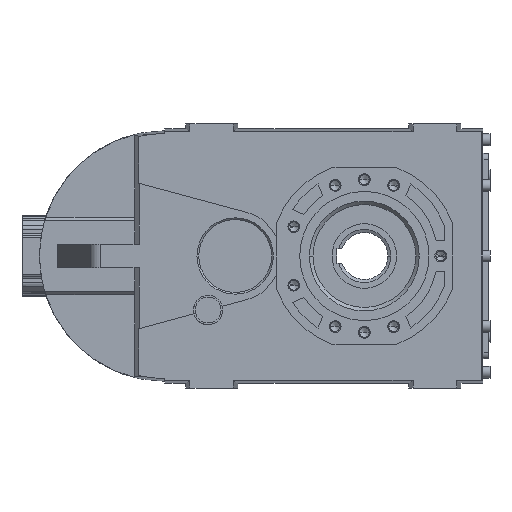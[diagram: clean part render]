
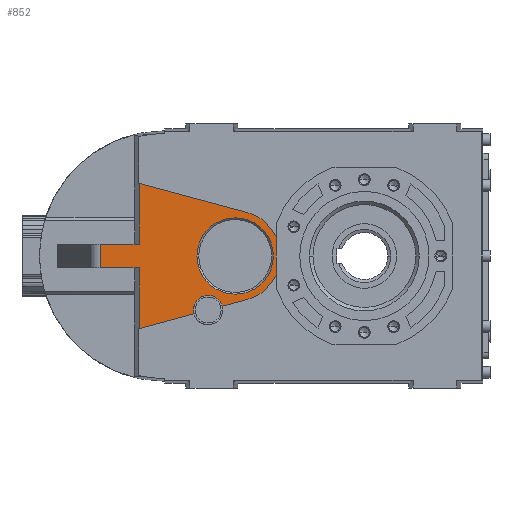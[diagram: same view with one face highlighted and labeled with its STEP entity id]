
A CAD part, left-side view. The second image highlights one B-rep face of the part: STEP entity #852.
In plain terms, the highlighted planar face has unit normal (-1, 0, 0).
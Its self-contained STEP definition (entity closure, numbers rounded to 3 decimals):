
#852 = ADVANCED_FACE( '', ( #3625, #3626 ), #3627, .T. );
#3625 = FACE_OUTER_BOUND( '', #8567, .T. );
#3626 = FACE_BOUND( '', #8568, .T. );
#3627 = PLANE( '', #8569 );
#8567 = EDGE_LOOP( '', ( #15459, #15460, #15461, #15462, #15463, #15464, #15465, #15466, #15467, #15468, #15469, #15470, #15471 ) );
#8568 = EDGE_LOOP( '', ( #15472, #15473 ) );
#8569 = AXIS2_PLACEMENT_3D( '', #15474, #15475, #15476 );
#15459 = ORIENTED_EDGE( '', *, *, #33570, .T. );
#15460 = ORIENTED_EDGE( '', *, *, #33730, .F. );
#15461 = ORIENTED_EDGE( '', *, *, #33731, .F. );
#15462 = ORIENTED_EDGE( '', *, *, #33717, .T. );
#15463 = ORIENTED_EDGE( '', *, *, #33711, .T. );
#15464 = ORIENTED_EDGE( '', *, *, #33706, .F. );
#15465 = ORIENTED_EDGE( '', *, *, #33700, .F. );
#15466 = ORIENTED_EDGE( '', *, *, #33727, .T. );
#15467 = ORIENTED_EDGE( '', *, *, #33695, .F. );
#15468 = ORIENTED_EDGE( '', *, *, #33692, .T. );
#15469 = ORIENTED_EDGE( '', *, *, #32864, .T. );
#15470 = ORIENTED_EDGE( '', *, *, #33732, .F. );
#15471 = ORIENTED_EDGE( '', *, *, #33652, .F. );
#15472 = ORIENTED_EDGE( '', *, *, #32885, .T. );
#15473 = ORIENTED_EDGE( '', *, *, #33684, .T. );
#15474 = CARTESIAN_POINT( '', ( 3., 0., 0. ) );
#15475 = DIRECTION( '', ( -1., 0., 0. ) );
#15476 = DIRECTION( '', ( 0., 0., 1. ) );
#32864 = EDGE_CURVE( '', #39349, #39357, #39359, .T. );
#32885 = EDGE_CURVE( '', #39395, #39399, #39401, .T. );
#33570 = EDGE_CURVE( '', #40537, #40534, #40538, .T. );
#33652 = EDGE_CURVE( '', #40537, #40673, #40674, .T. );
#33684 = EDGE_CURVE( '', #39399, #39395, #40733, .T. );
#33692 = EDGE_CURVE( '', #40741, #39349, #40742, .T. );
#33695 = EDGE_CURVE( '', #40741, #40745, #40746, .T. );
#33700 = EDGE_CURVE( '', #40750, #40753, #40754, .T. );
#33706 = EDGE_CURVE( '', #40753, #40760, #40764, .T. );
#33711 = EDGE_CURVE( '', #40769, #40760, #40772, .T. );
#33717 = EDGE_CURVE( '', #40781, #40769, #40782, .T. );
#33727 = EDGE_CURVE( '', #40750, #40745, #40796, .T. );
#33730 = EDGE_CURVE( '', #40799, #40534, #40800, .T. );
#33731 = EDGE_CURVE( '', #40781, #40799, #40801, .T. );
#33732 = EDGE_CURVE( '', #40673, #39357, #40802, .T. );
#39349 = VERTEX_POINT( '', #50107 );
#39357 = VERTEX_POINT( '', #50117 );
#39359 = CIRCLE( '', #50120, 12.5 );
#39395 = VERTEX_POINT( '', #50164 );
#39399 = VERTEX_POINT( '', #50169 );
#39401 = CIRCLE( '', #50172, 32.5 );
#40534 = VERTEX_POINT( '', #51834 );
#40537 = VERTEX_POINT( '', #51838 );
#40538 = LINE( '', #51839, #51840 );
#40673 = VERTEX_POINT( '', #52031 );
#40674 = CIRCLE( '', #52032, 38.5 );
#40733 = CIRCLE( '', #52118, 32.5 );
#40741 = VERTEX_POINT( '', #52126 );
#40742 = CIRCLE( '', #52127, 12.5 );
#40745 = VERTEX_POINT( '', #52131 );
#40746 = LINE( '', #52132, #52133 );
#40750 = VERTEX_POINT( '', #52138 );
#40753 = VERTEX_POINT( '', #52142 );
#40754 = LINE( '', #52143, #52144 );
#40760 = VERTEX_POINT( '', #52152 );
#40764 = LINE( '', #52157, #52158 );
#40769 = VERTEX_POINT( '', #52165 );
#40772 = LINE( '', #52170, #52171 );
#40781 = VERTEX_POINT( '', #52184 );
#40782 = LINE( '', #52185, #52186 );
#40796 = LINE( '', #52207, #52208 );
#40799 = VERTEX_POINT( '', #52212 );
#40800 = CIRCLE( '', #52213, 38.5 );
#40801 = LINE( '', #52214, #52215 );
#40802 = LINE( '', #52216, #52217 );
#50107 = CARTESIAN_POINT( '', ( 3., 145.5, -46. ) );
#50117 = CARTESIAN_POINT( '', ( 3., 120.921, -42.784 ) );
#50120 = AXIS2_PLACEMENT_3D( '', #67607, #67608, #67609 );
#50164 = CARTESIAN_POINT( '', ( 3., 142.5, 0. ) );
#50169 = CARTESIAN_POINT( '', ( 3., 77.5, 0. ) );
#50172 = AXIS2_PLACEMENT_3D( '', #67650, #67651, #67652 );
#51834 = CARTESIAN_POINT( '', ( 3., 75.1, 16.255 ) );
#51838 = CARTESIAN_POINT( '', ( 3., 75.1, -16.255 ) );
#51839 = CARTESIAN_POINT( '', ( 3., 75.1, -13.784 ) );
#51840 = VECTOR( '', #68786, 1. );
#52031 = CARTESIAN_POINT( '', ( 3., 100.035, -37.188 ) );
#52032 = AXIS2_PLACEMENT_3D( '', #68918, #68919, #68920 );
#52118 = AXIS2_PLACEMENT_3D( '', #68960, #68961, #68962 );
#52126 = CARTESIAN_POINT( '', ( 3., 145.069, -49.255 ) );
#52127 = AXIS2_PLACEMENT_3D( '', #68984, #68985, #68986 );
#52131 = CARTESIAN_POINT( '', ( 3., 191.843, -61.788 ) );
#52132 = CARTESIAN_POINT( '', ( 3., 192., -61.83 ) );
#52133 = VECTOR( '', #68991, 1. );
#52138 = CARTESIAN_POINT( '', ( 3., 191.843, -10. ) );
#52142 = CARTESIAN_POINT( '', ( 3., 224.425, -10. ) );
#52143 = CARTESIAN_POINT( '', ( 3., 191.84, -10. ) );
#52144 = VECTOR( '', #69000, 1. );
#52152 = CARTESIAN_POINT( '', ( 3., 224.425, 10. ) );
#52157 = CARTESIAN_POINT( '', ( 3., 224.425, -10. ) );
#52158 = VECTOR( '', #69010, 1. );
#52165 = CARTESIAN_POINT( '', ( 3., 191.843, 10. ) );
#52170 = CARTESIAN_POINT( '', ( 3., 191.84, 10. ) );
#52171 = VECTOR( '', #69015, 1. );
#52184 = CARTESIAN_POINT( '', ( 3., 191.843, 61.788 ) );
#52185 = CARTESIAN_POINT( '', ( 3., 191.843, -60. ) );
#52186 = VECTOR( '', #69023, 1. );
#52207 = CARTESIAN_POINT( '', ( 3., 191.843, -60. ) );
#52208 = VECTOR( '', #69037, 1. );
#52212 = CARTESIAN_POINT( '', ( 3., 100.035, 37.188 ) );
#52213 = AXIS2_PLACEMENT_3D( '', #69042, #69043, #69044 );
#52214 = CARTESIAN_POINT( '', ( 3., 100.035, 37.188 ) );
#52215 = VECTOR( '', #69045, 1. );
#52216 = CARTESIAN_POINT( '', ( 3., 192., -61.83 ) );
#52217 = VECTOR( '', #69046, 1. );
#67607 = CARTESIAN_POINT( '', ( 3., 133., -46. ) );
#67608 = DIRECTION( '', ( 1., 0., 0. ) );
#67609 = DIRECTION( '', ( 0., 1., 0. ) );
#67650 = CARTESIAN_POINT( '', ( 3., 110., 0. ) );
#67651 = DIRECTION( '', ( 1., 0., 0. ) );
#67652 = DIRECTION( '', ( 0., 1., 0. ) );
#68786 = DIRECTION( '', ( 0., 0., 1. ) );
#68918 = CARTESIAN_POINT( '', ( 3., 110., 0. ) );
#68919 = DIRECTION( '', ( 1., 0., 0. ) );
#68920 = DIRECTION( '', ( 0., -0.259, -0.966 ) );
#68960 = CARTESIAN_POINT( '', ( 3., 110., 0. ) );
#68961 = DIRECTION( '', ( 1., 0., 0. ) );
#68962 = DIRECTION( '', ( 0., 1., 0. ) );
#68984 = CARTESIAN_POINT( '', ( 3., 133., -46. ) );
#68985 = DIRECTION( '', ( 1., 0., 0. ) );
#68986 = DIRECTION( '', ( 0., 1., 0. ) );
#68991 = DIRECTION( '', ( 0., 0.966, -0.259 ) );
#69000 = DIRECTION( '', ( 0., 1., 0. ) );
#69010 = DIRECTION( '', ( 0., 0., 1. ) );
#69015 = DIRECTION( '', ( 0., 1., 0. ) );
#69023 = DIRECTION( '', ( 0., 0., -1. ) );
#69037 = DIRECTION( '', ( 0., 0., -1. ) );
#69042 = CARTESIAN_POINT( '', ( 3., 110., 0. ) );
#69043 = DIRECTION( '', ( 1., 0., 0. ) );
#69044 = DIRECTION( '', ( 0., -0.259, -0.966 ) );
#69045 = DIRECTION( '', ( 0., -0.966, -0.259 ) );
#69046 = DIRECTION( '', ( 0., 0.966, -0.259 ) );
